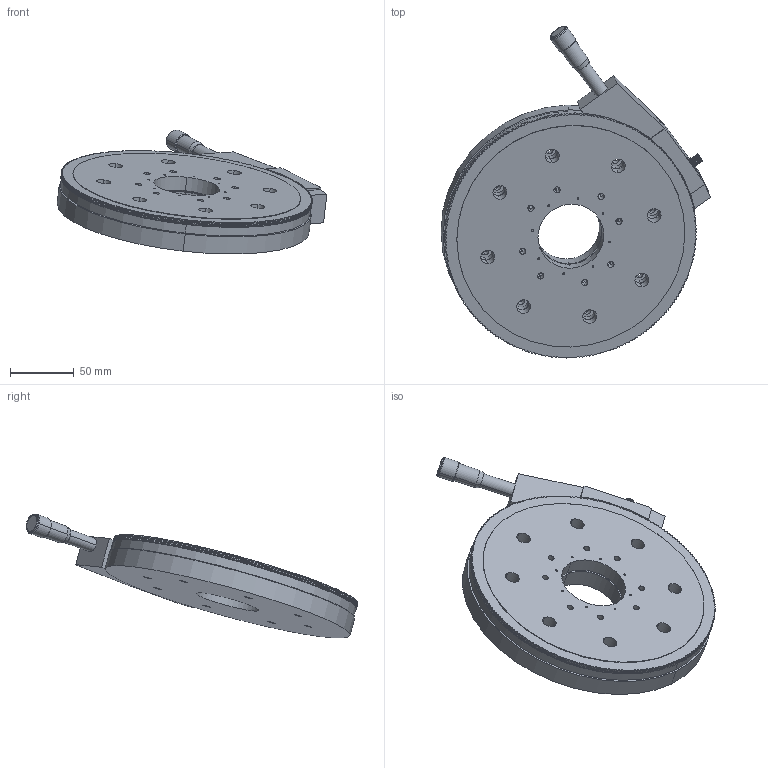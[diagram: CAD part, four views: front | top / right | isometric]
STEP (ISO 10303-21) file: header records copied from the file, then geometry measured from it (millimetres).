
FILE_DESCRIPTION (( 'STEP AP203' ), '1' );
FILE_NAME ('7R171-200.STEP', '2010-03-12T14:52:59', ( 'ramunas' ), ( '' ), 'SwSTEP 2.0', 'SolidWorks 2003240', '' );
FILE_SCHEMA (( 'CONFIG_CONTROL_DESIGN' ));
Length unit declared in the file: millimetre
Products named in the file (1): 7R171-200
Bounding box: 211.6 x 260.2 x 97.22 mm (x, y, z)
Volume: 736593.3 mm3; surface area: 184459.6 mm2
Topology: 1 solids, 24 shells, 1735 faces, 4641 edges, 3059 vertices
Faces by surface type: plane 846, cylinder 748, cone 77, bspline 64
Entity records: 60863 total; most frequent: CARTESIAN_POINT 16613, DIRECTION 9315, ORIENTED_EDGE 9234, EDGE_CURVE 4617, AXIS2_PLACEMENT_3D 3350, VERTEX_POINT 3059, VECTOR 2615, LINE 2615
